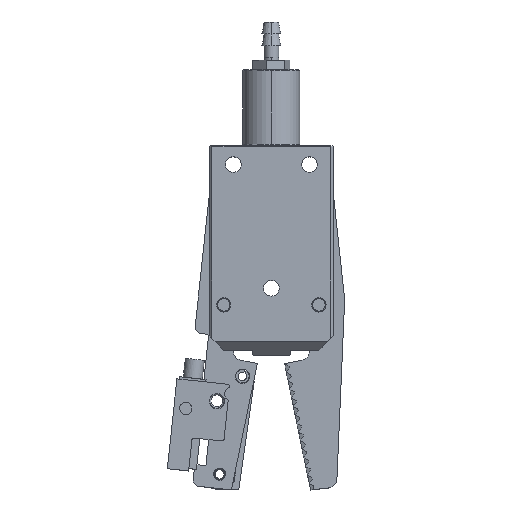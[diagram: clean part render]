
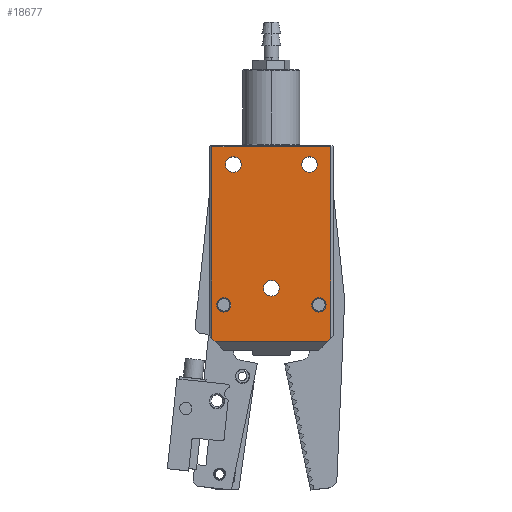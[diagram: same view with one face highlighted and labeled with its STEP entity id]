
A CAD part, top view. The second image highlights one B-rep face of the part: STEP entity #18677.
In plain terms, the highlighted planar face has unit normal (0, 0, 1).
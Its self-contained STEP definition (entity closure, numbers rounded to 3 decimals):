
#173 = DIRECTION ( 'NONE',  ( 0., 0., 1. ) ) ;
#201 = VECTOR ( 'NONE', #13847, 1000. ) ;
#526 = DIRECTION ( 'NONE',  ( 0., 1., 0. ) ) ;
#761 = LINE ( 'NONE', #22387, #201 ) ;
#818 = VERTEX_POINT ( 'NONE', #3061 ) ;
#978 = CIRCLE ( 'NONE', #7886, 1.65 ) ;
#1114 = LINE ( 'NONE', #4852, #14743 ) ;
#1174 = VERTEX_POINT ( 'NONE', #7764 ) ;
#1189 = DIRECTION ( 'NONE',  ( 0., 1., 0. ) ) ;
#1340 = FACE_OUTER_BOUND ( 'NONE', #20317, .T. ) ;
#1734 = CARTESIAN_POINT ( 'NONE',  ( -1.019, 16.579, 66.7 ) ) ;
#1892 = FACE_BOUND ( 'NONE', #7358, .T. ) ;
#1934 = DIRECTION ( 'NONE',  ( 0., 0., 1. ) ) ;
#2116 = CARTESIAN_POINT ( 'NONE',  ( -19.019, -11.421, 66.7 ) ) ;
#2719 = CIRCLE ( 'NONE', #11799, 1.65 ) ;
#2745 = VECTOR ( 'NONE', #18590, 1000. ) ;
#2821 = CARTESIAN_POINT ( 'NONE',  ( -19.019, -14.421, 66.7 ) ) ;
#2887 = CIRCLE ( 'NONE', #9722, 1.5 ) ;
#2978 = CIRCLE ( 'NONE', #17734, 1.65 ) ;
#3007 = CARTESIAN_POINT ( 'NONE',  ( -1.019, 16.579, 66.7 ) ) ;
#3042 = ORIENTED_EDGE ( 'NONE', *, *, #12729, .F. ) ;
#3061 = CARTESIAN_POINT ( 'NONE',  ( -9.019, -7.771, 66.7 ) ) ;
#3065 = DIRECTION ( 'NONE',  ( 0., -1., 0. ) ) ;
#3538 = DIRECTION ( 'NONE',  ( 0., 1., 0. ) ) ;
#3573 = FACE_BOUND ( 'NONE', #6985, .T. ) ;
#3780 = DIRECTION ( 'NONE',  ( 0., 0., -1. ) ) ;
#3810 = CARTESIAN_POINT ( 'NONE',  ( 0.981, -12.921, 66.7 ) ) ;
#4028 = VERTEX_POINT ( 'NONE', #2821 ) ;
#4586 = ORIENTED_EDGE ( 'NONE', *, *, #12419, .F. ) ;
#4777 = DIRECTION ( 'NONE',  ( 0., 1., 0. ) ) ;
#4837 = DIRECTION ( 'NONE',  ( 0., 0., 1. ) ) ;
#4852 = CARTESIAN_POINT ( 'NONE',  ( 3.481, -0.096, 66.7 ) ) ;
#4996 = AXIS2_PLACEMENT_3D ( 'NONE', #12603, #1934, #14390 ) ;
#5115 = CARTESIAN_POINT ( 'NONE',  ( -20.869, -20.571, 66.7 ) ) ;
#5571 = DIRECTION ( 'NONE',  ( 0., 1., 0. ) ) ;
#5856 = EDGE_CURVE ( 'NONE', #8114, #21361, #21188, .T. ) ;
#6070 = FACE_BOUND ( 'NONE', #15074, .T. ) ;
#6394 = CARTESIAN_POINT ( 'NONE',  ( -17.019, 16.579, 66.7 ) ) ;
#6450 = EDGE_CURVE ( 'NONE', #9576, #1174, #9663, .T. ) ;
#6476 = ORIENTED_EDGE ( 'NONE', *, *, #7987, .F. ) ;
#6517 = EDGE_CURVE ( 'NONE', #21361, #8114, #2719, .T. ) ;
#6634 = DIRECTION ( 'NONE',  ( -1., 0., 0. ) ) ;
#6985 = EDGE_LOOP ( 'NONE', ( #14576, #16289 ) ) ;
#7130 = VERTEX_POINT ( 'NONE', #5115 ) ;
#7255 = PLANE ( 'NONE',  #14297 ) ;
#7358 = EDGE_LOOP ( 'NONE', ( #12561, #6476 ) ) ;
#7362 = VECTOR ( 'NONE', #6634, 1000. ) ;
#7523 = CARTESIAN_POINT ( 'NONE',  ( 0.981, -12.921, 66.7 ) ) ;
#7764 = CARTESIAN_POINT ( 'NONE',  ( 3.481, 20.379, 66.7 ) ) ;
#7886 = AXIS2_PLACEMENT_3D ( 'NONE', #19380, #8685, #21181 ) ;
#7987 = EDGE_CURVE ( 'NONE', #13967, #10010, #978, .T. ) ;
#8114 = VERTEX_POINT ( 'NONE', #19682 ) ;
#8117 = CARTESIAN_POINT ( 'NONE',  ( -9.019, -11.071, 66.7 ) ) ;
#8126 = CARTESIAN_POINT ( 'NONE',  ( 0.981, -11.421, 66.7 ) ) ;
#8175 = DIRECTION ( 'NONE',  ( 0., 1., 0. ) ) ;
#8201 = VECTOR ( 'NONE', #526, 1000. ) ;
#8305 = CARTESIAN_POINT ( 'NONE',  ( 2.831, -20.571, 66.7 ) ) ;
#8685 = DIRECTION ( 'NONE',  ( 0., 0., 1. ) ) ;
#9145 = CIRCLE ( 'NONE', #19509, 1.5 ) ;
#9335 = DIRECTION ( 'NONE',  ( 0., 1., 0. ) ) ;
#9403 = VERTEX_POINT ( 'NONE', #10195 ) ;
#9510 = ORIENTED_EDGE ( 'NONE', *, *, #5856, .F. ) ;
#9576 = VERTEX_POINT ( 'NONE', #17915 ) ;
#9663 = LINE ( 'NONE', #22435, #19168 ) ;
#9722 = AXIS2_PLACEMENT_3D ( 'NONE', #15493, #4837, #17298 ) ;
#9822 = ORIENTED_EDGE ( 'NONE', *, *, #9873, .T. ) ;
#9848 = ORIENTED_EDGE ( 'NONE', *, *, #10457, .T. ) ;
#9873 = EDGE_CURVE ( 'NONE', #22740, #15801, #761, .T. ) ;
#10010 = VERTEX_POINT ( 'NONE', #14286 ) ;
#10195 = CARTESIAN_POINT ( 'NONE',  ( 0.981, -14.421, 66.7 ) ) ;
#10444 = EDGE_LOOP ( 'NONE', ( #16813, #9510 ) ) ;
#10457 = EDGE_CURVE ( 'NONE', #17780, #7130, #12204, .T. ) ;
#10489 = AXIS2_PLACEMENT_3D ( 'NONE', #3810, #16286, #5571 ) ;
#10800 = FACE_BOUND ( 'NONE', #12261, .T. ) ;
#10850 = CARTESIAN_POINT ( 'NONE',  ( -9.019, -9.421, 66.7 ) ) ;
#11156 = CIRCLE ( 'NONE', #19357, 1.5 ) ;
#11233 = CARTESIAN_POINT ( 'NONE',  ( -21.519, -0.096, 66.7 ) ) ;
#11375 = EDGE_CURVE ( 'NONE', #9403, #19884, #18585, .T. ) ;
#11747 = CARTESIAN_POINT ( 'NONE',  ( -21.519, -19.921, 66.7 ) ) ;
#11799 = AXIS2_PLACEMENT_3D ( 'NONE', #3007, #15449, #4777 ) ;
#11865 = DIRECTION ( 'NONE',  ( 0., 0., 1. ) ) ;
#12110 = LINE ( 'NONE', #17063, #7362 ) ;
#12204 = LINE ( 'NONE', #13261, #2745 ) ;
#12261 = EDGE_LOOP ( 'NONE', ( #14619, #15934 ) ) ;
#12419 = EDGE_CURVE ( 'NONE', #22740, #7130, #12110, .T. ) ;
#12561 = ORIENTED_EDGE ( 'NONE', *, *, #22373, .F. ) ;
#12603 = CARTESIAN_POINT ( 'NONE',  ( -9.019, -9.421, 66.7 ) ) ;
#12644 = DIRECTION ( 'NONE',  ( 0., 1., 0. ) ) ;
#12729 = EDGE_CURVE ( 'NONE', #17780, #9576, #17683, .T. ) ;
#12788 = AXIS2_PLACEMENT_3D ( 'NONE', #1734, #14174, #3538 ) ;
#13261 = CARTESIAN_POINT ( 'NONE',  ( -20.519, -20.921, 66.7 ) ) ;
#13495 = CIRCLE ( 'NONE', #18853, 1.65 ) ;
#13847 = DIRECTION ( 'NONE',  ( 0.707, 0.707, 0. ) ) ;
#13967 = VERTEX_POINT ( 'NONE', #20867 ) ;
#14174 = DIRECTION ( 'NONE',  ( 0., 0., 1. ) ) ;
#14286 = CARTESIAN_POINT ( 'NONE',  ( -17.019, 18.229, 66.7 ) ) ;
#14297 = AXIS2_PLACEMENT_3D ( 'NONE', #14417, #3780, #16256 ) ;
#14390 = DIRECTION ( 'NONE',  ( 0., 1., 0. ) ) ;
#14417 = CARTESIAN_POINT ( 'NONE',  ( 3.481, -20.571, 66.7 ) ) ;
#14576 = ORIENTED_EDGE ( 'NONE', *, *, #16016, .F. ) ;
#14618 = CARTESIAN_POINT ( 'NONE',  ( -1.019, 18.229, 66.7 ) ) ;
#14619 = ORIENTED_EDGE ( 'NONE', *, *, #16087, .F. ) ;
#14743 = VECTOR ( 'NONE', #3065, 1000. ) ;
#14867 = EDGE_CURVE ( 'NONE', #4028, #20747, #2887, .T. ) ;
#15074 = EDGE_LOOP ( 'NONE', ( #18992, #20733 ) ) ;
#15449 = DIRECTION ( 'NONE',  ( 0., 0., 1. ) ) ;
#15493 = CARTESIAN_POINT ( 'NONE',  ( -19.019, -12.921, 66.7 ) ) ;
#15542 = FACE_BOUND ( 'NONE', #10444, .T. ) ;
#15767 = ORIENTED_EDGE ( 'NONE', *, *, #6450, .F. ) ;
#15801 = VERTEX_POINT ( 'NONE', #17387 ) ;
#15934 = ORIENTED_EDGE ( 'NONE', *, *, #11375, .F. ) ;
#16016 = EDGE_CURVE ( 'NONE', #818, #21842, #19821, .T. ) ;
#16087 = EDGE_CURVE ( 'NONE', #19884, #9403, #11156, .T. ) ;
#16256 = DIRECTION ( 'NONE',  ( -1., 0., 0. ) ) ;
#16286 = DIRECTION ( 'NONE',  ( 0., 0., 1. ) ) ;
#16289 = ORIENTED_EDGE ( 'NONE', *, *, #19615, .F. ) ;
#16813 = ORIENTED_EDGE ( 'NONE', *, *, #6517, .F. ) ;
#16833 = ORIENTED_EDGE ( 'NONE', *, *, #21017, .F. ) ;
#16940 = DIRECTION ( 'NONE',  ( 1., 0., 0. ) ) ;
#17063 = CARTESIAN_POINT ( 'NONE',  ( -9.019, -20.571, 66.7 ) ) ;
#17298 = DIRECTION ( 'NONE',  ( 0., 1., 0. ) ) ;
#17387 = CARTESIAN_POINT ( 'NONE',  ( 3.481, -19.921, 66.7 ) ) ;
#17683 = LINE ( 'NONE', #11233, #8201 ) ;
#17734 = AXIS2_PLACEMENT_3D ( 'NONE', #6394, #18865, #8175 ) ;
#17780 = VERTEX_POINT ( 'NONE', #11747 ) ;
#17915 = CARTESIAN_POINT ( 'NONE',  ( -21.519, 20.379, 66.7 ) ) ;
#18585 = CIRCLE ( 'NONE', #10489, 1.5 ) ;
#18590 = DIRECTION ( 'NONE',  ( 0.707, -0.707, 0. ) ) ;
#18677 = ADVANCED_FACE ( 'NONE', ( #3573, #1892, #15542, #10800, #6070, #1340 ), #7255, .F. ) ;
#18853 = AXIS2_PLACEMENT_3D ( 'NONE', #10850, #173, #12644 ) ;
#18865 = DIRECTION ( 'NONE',  ( 0., 0., 1. ) ) ;
#18992 = ORIENTED_EDGE ( 'NONE', *, *, #21885, .F. ) ;
#19168 = VECTOR ( 'NONE', #16940, 1000. ) ;
#19357 = AXIS2_PLACEMENT_3D ( 'NONE', #7523, #20027, #9335 ) ;
#19380 = CARTESIAN_POINT ( 'NONE',  ( -17.019, 16.579, 66.7 ) ) ;
#19509 = AXIS2_PLACEMENT_3D ( 'NONE', #22572, #11865, #1189 ) ;
#19615 = EDGE_CURVE ( 'NONE', #21842, #818, #13495, .T. ) ;
#19682 = CARTESIAN_POINT ( 'NONE',  ( -1.019, 14.929, 66.7 ) ) ;
#19821 = CIRCLE ( 'NONE', #4996, 1.65 ) ;
#19884 = VERTEX_POINT ( 'NONE', #8126 ) ;
#20027 = DIRECTION ( 'NONE',  ( 0., 0., 1. ) ) ;
#20317 = EDGE_LOOP ( 'NONE', ( #9848, #4586, #9822, #16833, #15767, #3042 ) ) ;
#20733 = ORIENTED_EDGE ( 'NONE', *, *, #14867, .F. ) ;
#20747 = VERTEX_POINT ( 'NONE', #2116 ) ;
#20867 = CARTESIAN_POINT ( 'NONE',  ( -17.019, 14.929, 66.7 ) ) ;
#21017 = EDGE_CURVE ( 'NONE', #1174, #15801, #1114, .T. ) ;
#21181 = DIRECTION ( 'NONE',  ( 0., 1., 0. ) ) ;
#21188 = CIRCLE ( 'NONE', #12788, 1.65 ) ;
#21361 = VERTEX_POINT ( 'NONE', #14618 ) ;
#21842 = VERTEX_POINT ( 'NONE', #8117 ) ;
#21885 = EDGE_CURVE ( 'NONE', #20747, #4028, #9145, .T. ) ;
#22373 = EDGE_CURVE ( 'NONE', #10010, #13967, #2978, .T. ) ;
#22387 = CARTESIAN_POINT ( 'NONE',  ( 2.481, -20.921, 66.7 ) ) ;
#22435 = CARTESIAN_POINT ( 'NONE',  ( -9.019, 20.379, 66.7 ) ) ;
#22572 = CARTESIAN_POINT ( 'NONE',  ( -19.019, -12.921, 66.7 ) ) ;
#22740 = VERTEX_POINT ( 'NONE', #8305 ) ;
